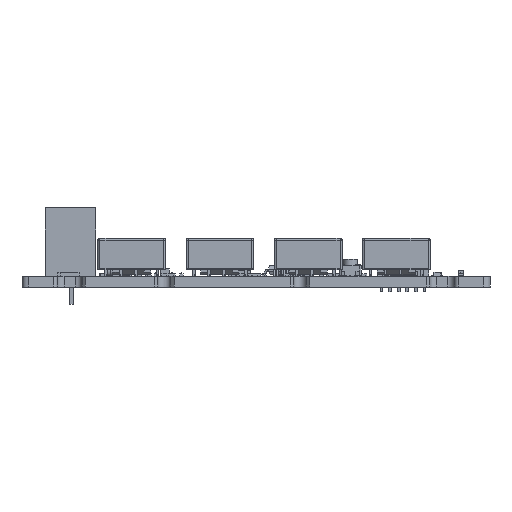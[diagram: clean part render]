
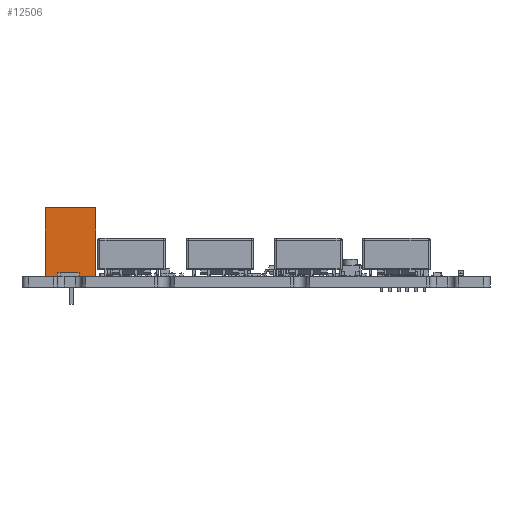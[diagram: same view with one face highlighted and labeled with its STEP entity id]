
A CAD part, left-side view. The second image highlights one B-rep face of the part: STEP entity #12506.
In plain terms, the highlighted planar face has unit normal (-1, 0, 0).
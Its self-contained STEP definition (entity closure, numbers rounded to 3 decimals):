
#12506 = ADVANCED_FACE('',(#12507),#12541,.F.);
#12507 = FACE_BOUND('',#12508,.T.);
#12508 = EDGE_LOOP('',(#12509,#12519,#12527,#12535));
#12509 = ORIENTED_EDGE('',*,*,#12510,.T.);
#12510 = EDGE_CURVE('',#12511,#12513,#12515,.T.);
#12511 = VERTEX_POINT('',#12512);
#12512 = CARTESIAN_POINT('',(67.06,65.59,
    0.));
#12513 = VERTEX_POINT('',#12514);
#12514 = CARTESIAN_POINT('',(67.06,58.09,
    0.));
#12515 = LINE('',#12516,#12517);
#12516 = CARTESIAN_POINT('',(67.06,65.59,
    0.));
#12517 = VECTOR('',#12518,1.);
#12518 = DIRECTION('',(0.,-1.,0.));
#12519 = ORIENTED_EDGE('',*,*,#12520,.F.);
#12520 = EDGE_CURVE('',#12521,#12513,#12523,.T.);
#12521 = VERTEX_POINT('',#12522);
#12522 = CARTESIAN_POINT('',(67.06,58.09,
    10.1));
#12523 = LINE('',#12524,#12525);
#12524 = CARTESIAN_POINT('',(67.06,58.09,
    10.1));
#12525 = VECTOR('',#12526,1.);
#12526 = DIRECTION('',(0.,0.,-1.));
#12527 = ORIENTED_EDGE('',*,*,#12528,.F.);
#12528 = EDGE_CURVE('',#12529,#12521,#12531,.T.);
#12529 = VERTEX_POINT('',#12530);
#12530 = CARTESIAN_POINT('',(67.06,65.59,
    10.1));
#12531 = LINE('',#12532,#12533);
#12532 = CARTESIAN_POINT('',(67.06,65.59,
    10.1));
#12533 = VECTOR('',#12534,1.);
#12534 = DIRECTION('',(0.,-1.,0.));
#12535 = ORIENTED_EDGE('',*,*,#12536,.T.);
#12536 = EDGE_CURVE('',#12529,#12511,#12537,.T.);
#12537 = LINE('',#12538,#12539);
#12538 = CARTESIAN_POINT('',(67.06,65.59,
    10.1));
#12539 = VECTOR('',#12540,1.);
#12540 = DIRECTION('',(0.,0.,-1.));
#12541 = PLANE('',#12542);
#12542 = AXIS2_PLACEMENT_3D('',#12543,#12544,#12545);
#12543 = CARTESIAN_POINT('',(67.06,65.59,
    10.1));
#12544 = DIRECTION('',(1.,0.,0.));
#12545 = DIRECTION('',(0.,1.,0.));
